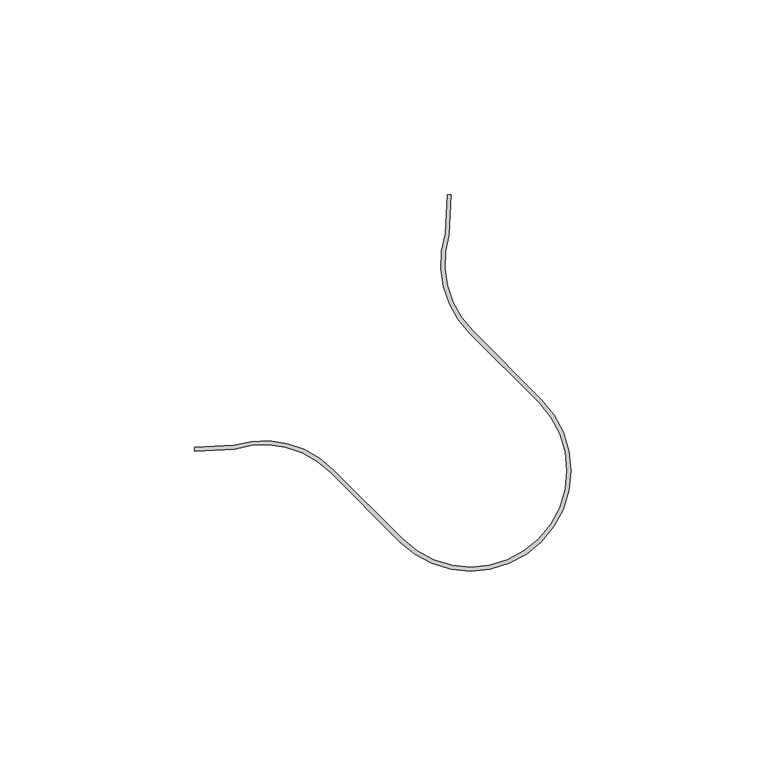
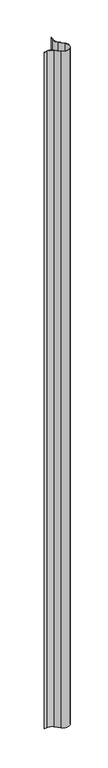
"""IFC4 building model written with IfcOpenShell, lengths in millimetres: proxy geometry, Angle sortant V : Angle sortant V."""

from ifc_helpers import new_model, si_unit, point, frame_2d, origin, origin_with_axes, place, context, project, spatial, polyline, circle_curve, trimmed, segment, composite_curve, outline, extrude, source, transform, mapped, element, save


def generic_models_8bef1f62(model_context):
    return source(origin(), model_context, "Body", "SweptSolid", [
        extrude(outline(composite_curve([segment(trimmed(circle_curve(frame_2d((-8.1571833, 78.8678614)), 24.25), [point((-31.2518285, 86.2637968))], [point((-25.3045227, 61.720522))], True, "CARTESIAN"), True, "CONTINUOUS"), segment(polyline([(-25.3045227, 61.720522), (-7.5420004, 43.9579996)]), True, "CONTINUOUS"), segment(trimmed(circle_curve(frame_2d((-25.75, 25.75)), 25.75), [point((-7.5420004, 43.9579996))], [point((-7.5420004, 7.5420004))], False, "CARTESIAN"), True, "CONTINUOUS"), segment(trimmed(circle_curve(frame_2d((-25.75, 25.75)), 25.75), [point((-7.5420004, 7.5420004))], [point((-43.9579996, 7.5420004))], False, "CARTESIAN"), True, "CONTINUOUS"), segment(polyline([(-43.9579996, 7.5420004), (-61.720522, 25.3045227)]), True, "CONTINUOUS"), segment(trimmed(circle_curve(frame_2d((-78.8678614, 8.1571833)), 24.25), [point((-61.720522, 25.3045227))], [point((-86.2637968, 31.2518285))], True, "CARTESIAN"), True, "CONTINUOUS"), segment(polyline([(-86.2637968, 31.2518285), (-96.4932112, 30.7157276), (-96.4932112, 31.7171), (-86.4441266, 32.2437502)]), True, "CONTINUOUS"), segment(trimmed(circle_curve(frame_2d((-78.8678614, 8.1571833)), 25.25), [point((-86.4441266, 32.2437502))], [point((-61.0134152, 26.0116295))], False, "CARTESIAN"), True, "CONTINUOUS"), segment(polyline([(-61.0134152, 26.0116295), (-43.2508928, 8.2491072)]), True, "CONTINUOUS"), segment(trimmed(circle_curve(frame_2d((-25.75, 25.75)), 24.75), [point((-43.2508928, 8.2491072))], [point((-8.2491072, 8.2491072))], True, "CARTESIAN"), True, "CONTINUOUS"), segment(trimmed(circle_curve(frame_2d((-25.75, 25.75)), 24.75), [point((-8.2491072, 8.2491072))], [point((-8.2491072, 43.2508928))], True, "CARTESIAN"), True, "CONTINUOUS"), segment(polyline([(-8.2491072, 43.2508928), (-26.0116295, 61.0134152)]), True, "CONTINUOUS"), segment(trimmed(circle_curve(frame_2d((-8.1571833, 78.8678614)), 25.25), [point((-26.0116295, 61.0134152))], [point((-32.2437502, 86.4441266))], False, "CARTESIAN"), True, "CONTINUOUS"), segment(polyline([(-32.2437502, 86.4441266), (-31.7198428, 96.4408753), (-30.7184705, 96.4408753), (-31.2518285, 86.2637968)]), True, "CONTINUOUS")], self_intersect=False)), origin_with_axes(), (0.0, 0.0, 1.0), 2850.0),
    ])


if __name__ == "__main__":
    model = new_model("IFC4")
    model_context = context("Model", 3, world=origin())
    ifc_project = project(units=[si_unit("LENGTHUNIT", "METRE", prefix="MILLI")], contexts=[model_context])
    site = spatial("IfcSite", under=ifc_project)
    building = spatial("IfcBuilding", under=site)
    placement = place(None, origin())
    generic_models_shape = generic_models_8bef1f62(model_context)
    element("IfcBuildingElementProxy", 1, Name="Angle sortant V : Angle sortant V", ObjectType="Angle sortant V : Angle sortant V", at=placement, inside=building, context=model_context, shape_type="MappedRepresentation", body=[
        mapped(generic_models_shape, transform((0.0, 0.0, 0.0), x_axis=(1.0, 0.0, 0.0), y_axis=(0.0, 1.0, 0.0), z_axis=(0.0, 0.0, 1.0))),
    ])
    save(model, "model.ifc")
